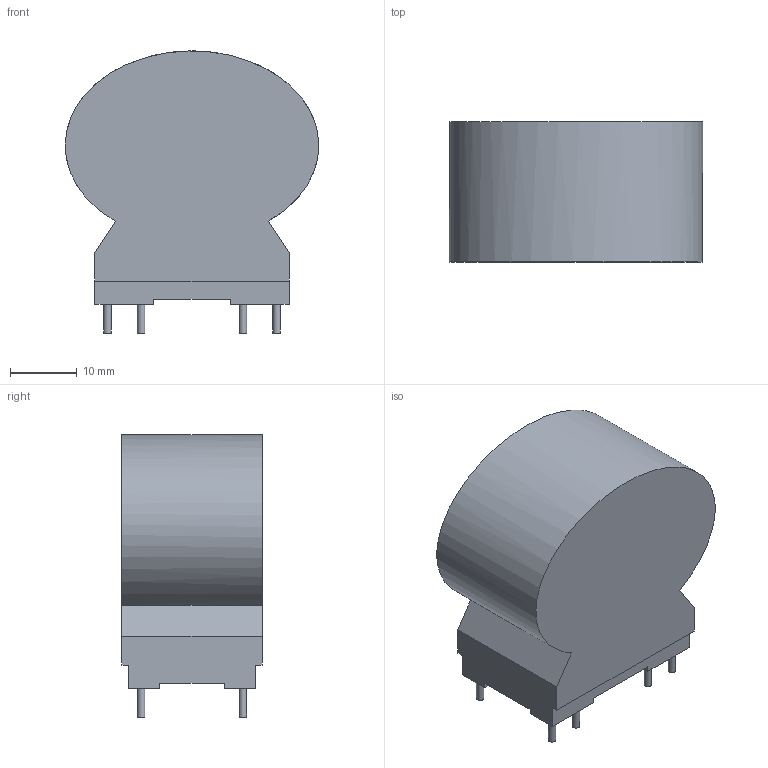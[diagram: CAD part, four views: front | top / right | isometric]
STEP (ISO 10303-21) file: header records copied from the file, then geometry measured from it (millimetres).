
FILE_DESCRIPTION(/* description */ (''),/* implementation_level */ '2;1');
FILE_NAME(/* name */ 'E:\job\working(2020)\CMC construction\6166-X033 4.3mm pin length\6166-X033 3D Model.stp',/* time_stamp */ '2020-06-30T15:15:41+08:00',/* author */ ('cn000333'),/* organization */ (''),/* preprocessor_version */ 'ST-DEVELOPER v17',/* originating_system */ 'Autodesk Inventor 2019',/* authorisation */ '');
FILE_SCHEMA (('AUTOMOTIVE_DESIGN { 1 0 10303 214 3 1 1 }'));
Length unit declared in the file: millimetre
Products named in the file (1): 零件1
Bounding box: 37.99 x 21 x 42.29 mm (x, y, z)
Volume: 23694.3 mm3; surface area: 5292.4 mm2
Topology: 1 solids, 1 shells, 40 faces, 90 edges, 60 vertices
Faces by surface type: plane 31, cylinder 8, bspline 1
Full cylindrical faces by diameter (mm): 1.12 x8
Entity records: 1164 total; most frequent: CARTESIAN_POINT 208, DIRECTION 188, ORIENTED_EDGE 180, EDGE_CURVE 90, LINE 72, VECTOR 72, VERTEX_POINT 60, AXIS2_PLACEMENT_3D 58
